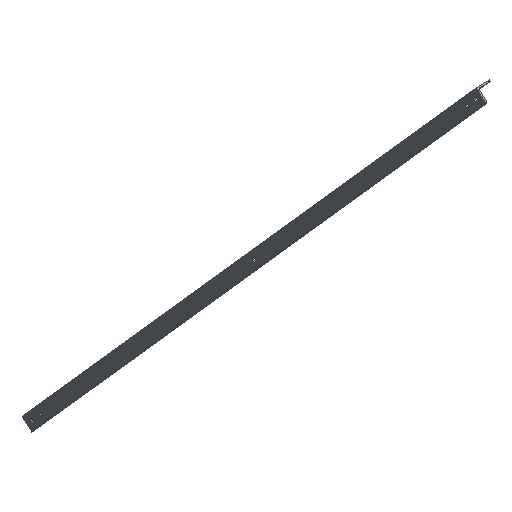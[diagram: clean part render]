
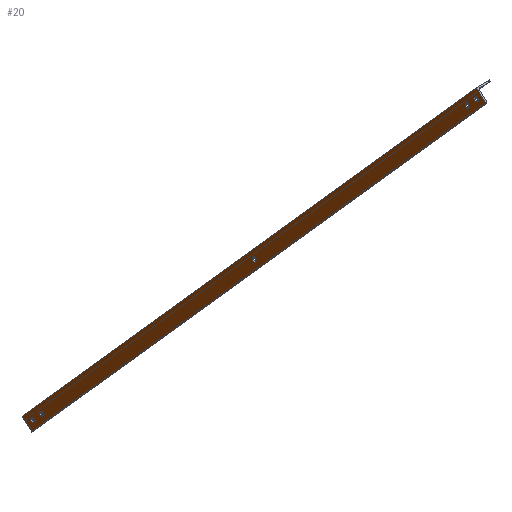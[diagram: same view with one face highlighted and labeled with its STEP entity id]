
A CAD part, isometric view. The second image highlights one B-rep face of the part: STEP entity #20.
In plain terms, the highlighted planar face has unit normal (-1, 0, 0).
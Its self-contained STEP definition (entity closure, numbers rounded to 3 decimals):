
#5 = DIRECTION ( 'NONE',  ( 0., 0., 1. ) ) ;
#9 = VERTEX_POINT ( 'NONE', #570 ) ;
#15 = ORIENTED_EDGE ( 'NONE', *, *, #16, .F. ) ;
#16 = EDGE_CURVE ( 'NONE', #703, #43, #152, .T. ) ;
#20 = ADVANCED_FACE ( 'NONE', ( #391, #68, #405, #639, #133, #580 ), #307, .F. ) ;
#28 = CIRCLE ( 'NONE', #430, 7. ) ;
#37 = VERTEX_POINT ( 'NONE', #182 ) ;
#42 = CIRCLE ( 'NONE', #662, 7. ) ;
#43 = VERTEX_POINT ( 'NONE', #225 ) ;
#44 = LINE ( 'NONE', #370, #86 ) ;
#45 = EDGE_CURVE ( 'NONE', #43, #703, #608, .T. ) ;
#50 = DIRECTION ( 'NONE',  ( -1., 0., 0. ) ) ;
#59 = EDGE_CURVE ( 'NONE', #469, #122, #154, .T. ) ;
#68 = FACE_BOUND ( 'NONE', #76, .T. ) ;
#69 = CARTESIAN_POINT ( 'NONE',  ( 5., 1747.296, 2111.993 ) ) ;
#76 = EDGE_LOOP ( 'NONE', ( #535, #544 ) ) ;
#85 = CARTESIAN_POINT ( 'NONE',  ( 5., 950., 3017. ) ) ;
#86 = VECTOR ( 'NONE', #715, 1000. ) ;
#90 = VERTEX_POINT ( 'NONE', #508 ) ;
#100 = CARTESIAN_POINT ( 'NONE',  ( 5., 950., 3010. ) ) ;
#120 = CIRCLE ( 'NONE', #537, 7. ) ;
#121 = EDGE_CURVE ( 'NONE', #622, #732, #206, .T. ) ;
#122 = VERTEX_POINT ( 'NONE', #550 ) ;
#124 = CARTESIAN_POINT ( 'NONE',  ( 5., 1747.296, 2118.993 ) ) ;
#133 = FACE_BOUND ( 'NONE', #146, .T. ) ;
#136 = ORIENTED_EDGE ( 'NONE', *, *, #624, .F. ) ;
#138 = CARTESIAN_POINT ( 'NONE',  ( 5., 1781.716, 2035.571 ) ) ;
#142 = DIRECTION ( 'NONE',  ( 0., 0., 1. ) ) ;
#146 = EDGE_LOOP ( 'NONE', ( #492, #162 ) ) ;
#152 = CIRCLE ( 'NONE', #678, 7. ) ;
#154 = CIRCLE ( 'NONE', #566, 7. ) ;
#162 = ORIENTED_EDGE ( 'NONE', *, *, #460, .F. ) ;
#163 = LINE ( 'NONE', #285, #524 ) ;
#164 = CARTESIAN_POINT ( 'NONE',  ( 5., 1747.296, 2111.993 ) ) ;
#165 = DIRECTION ( 'NONE',  ( 0., 0., 1. ) ) ;
#166 = CARTESIAN_POINT ( 'NONE',  ( 5., 1780.493, 2074.603 ) ) ;
#182 = CARTESIAN_POINT ( 'NONE',  ( 5., 1819.105, 2068.767 ) ) ;
#190 = CARTESIAN_POINT ( 'NONE',  ( 5., 950., 3010. ) ) ;
#193 = CIRCLE ( 'NONE', #331, 7. ) ;
#197 = VERTEX_POINT ( 'NONE', #124 ) ;
#204 = ORIENTED_EDGE ( 'NONE', *, *, #45, .F. ) ;
#206 = CIRCLE ( 'NONE', #630, 7. ) ;
#223 = ORIENTED_EDGE ( 'NONE', *, *, #502, .T. ) ;
#225 = CARTESIAN_POINT ( 'NONE',  ( 5., 119.507, 3952.397 ) ) ;
#226 = ORIENTED_EDGE ( 'NONE', *, *, #577, .F. ) ;
#233 = LINE ( 'NONE', #138, #398 ) ;
#235 = AXIS2_PLACEMENT_3D ( 'NONE', #291, #450, #517 ) ;
#243 = CARTESIAN_POINT ( 'NONE',  ( 5., 1780.493, 2074.603 ) ) ;
#246 = CARTESIAN_POINT ( 'NONE',  ( 5., 950., 3003. ) ) ;
#258 = DIRECTION ( 'NONE',  ( 1., 0., 0. ) ) ;
#266 = VERTEX_POINT ( 'NONE', #390 ) ;
#275 = DIRECTION ( 'NONE',  ( 0., 0., 1. ) ) ;
#283 = AXIS2_PLACEMENT_3D ( 'NONE', #528, #258, #417 ) ;
#285 = CARTESIAN_POINT ( 'NONE',  ( 5., 1819.105, 2068.767 ) ) ;
#291 = CARTESIAN_POINT ( 'NONE',  ( 5., 119.507, 3945.397 ) ) ;
#292 = ORIENTED_EDGE ( 'NONE', *, *, #357, .F. ) ;
#295 = VERTEX_POINT ( 'NONE', #85 ) ;
#302 = CIRCLE ( 'NONE', #385, 7. ) ;
#307 = PLANE ( 'NONE',  #283 ) ;
#318 = ORIENTED_EDGE ( 'NONE', *, *, #483, .T. ) ;
#322 = DIRECTION ( 'NONE',  ( -1., 0., 0. ) ) ;
#331 = AXIS2_PLACEMENT_3D ( 'NONE', #164, #722, #673 ) ;
#336 = VERTEX_POINT ( 'NONE', #729 ) ;
#342 = EDGE_CURVE ( 'NONE', #197, #9, #193, .T. ) ;
#347 = ORIENTED_EDGE ( 'NONE', *, *, #59, .F. ) ;
#355 = EDGE_CURVE ( 'NONE', #295, #388, #302, .T. ) ;
#357 = EDGE_CURVE ( 'NONE', #122, #469, #739, .T. ) ;
#370 = CARTESIAN_POINT ( 'NONE',  ( 5., 118.284, 3984.429 ) ) ;
#374 = CARTESIAN_POINT ( 'NONE',  ( 5., 152.704, 3908.007 ) ) ;
#377 = DIRECTION ( 'NONE',  ( 0., 0., 1. ) ) ;
#383 = DIRECTION ( 'NONE',  ( 0., 0.748, 0.664 ) ) ;
#385 = AXIS2_PLACEMENT_3D ( 'NONE', #100, #649, #655 ) ;
#388 = VERTEX_POINT ( 'NONE', #246 ) ;
#390 = CARTESIAN_POINT ( 'NONE',  ( 5., 118.284, 3984.429 ) ) ;
#391 = FACE_BOUND ( 'NONE', #459, .T. ) ;
#392 = CARTESIAN_POINT ( 'NONE',  ( 5., 152.704, 3901.007 ) ) ;
#398 = VECTOR ( 'NONE', #588, 1000. ) ;
#405 = FACE_BOUND ( 'NONE', #719, .T. ) ;
#417 = DIRECTION ( 'NONE',  ( 0., 0., -1. ) ) ;
#430 = AXIS2_PLACEMENT_3D ( 'NONE', #190, #635, #640 ) ;
#431 = DIRECTION ( 'NONE',  ( -1., 0., 0. ) ) ;
#435 = CARTESIAN_POINT ( 'NONE',  ( 5., 152.704, 3908.007 ) ) ;
#441 = LINE ( 'NONE', #461, #479 ) ;
#447 = EDGE_LOOP ( 'NONE', ( #204, #15 ) ) ;
#448 = EDGE_CURVE ( 'NONE', #388, #295, #28, .T. ) ;
#450 = DIRECTION ( 'NONE',  ( -1., 0., 0. ) ) ;
#459 = EDGE_LOOP ( 'NONE', ( #292, #347 ) ) ;
#460 = EDGE_CURVE ( 'NONE', #9, #197, #120, .T. ) ;
#461 = CARTESIAN_POINT ( 'NONE',  ( 5., 1819.105, 2068.767 ) ) ;
#469 = VERTEX_POINT ( 'NONE', #529 ) ;
#479 = VECTOR ( 'NONE', #680, 1000. ) ;
#483 = EDGE_CURVE ( 'NONE', #336, #90, #233, .T. ) ;
#492 = ORIENTED_EDGE ( 'NONE', *, *, #342, .F. ) ;
#494 = CARTESIAN_POINT ( 'NONE',  ( 5., 152.704, 3915.007 ) ) ;
#502 = EDGE_CURVE ( 'NONE', #90, #266, #44, .T. ) ;
#508 = CARTESIAN_POINT ( 'NONE',  ( 5., 80.895, 3951.233 ) ) ;
#517 = DIRECTION ( 'NONE',  ( 0., 0., 1. ) ) ;
#524 = VECTOR ( 'NONE', #383, 1000. ) ;
#528 = CARTESIAN_POINT ( 'NONE',  ( 5., 1819.105, 2068.767 ) ) ;
#529 = CARTESIAN_POINT ( 'NONE',  ( 5., 1780.493, 2067.603 ) ) ;
#535 = ORIENTED_EDGE ( 'NONE', *, *, #355, .F. ) ;
#537 = AXIS2_PLACEMENT_3D ( 'NONE', #69, #701, #5 ) ;
#544 = ORIENTED_EDGE ( 'NONE', *, *, #448, .F. ) ;
#550 = CARTESIAN_POINT ( 'NONE',  ( 5., 1780.493, 2081.603 ) ) ;
#557 = AXIS2_PLACEMENT_3D ( 'NONE', #243, #583, #142 ) ;
#565 = DIRECTION ( 'NONE',  ( 0., 0., 1. ) ) ;
#566 = AXIS2_PLACEMENT_3D ( 'NONE', #166, #50, #275 ) ;
#570 = CARTESIAN_POINT ( 'NONE',  ( 5., 1747.296, 2104.993 ) ) ;
#576 = ORIENTED_EDGE ( 'NONE', *, *, #734, .F. ) ;
#577 = EDGE_CURVE ( 'NONE', #37, #266, #441, .T. ) ;
#580 = FACE_OUTER_BOUND ( 'NONE', #737, .T. ) ;
#583 = DIRECTION ( 'NONE',  ( -1., 0., 0. ) ) ;
#588 = DIRECTION ( 'NONE',  ( 0., -0.664, 0.748 ) ) ;
#608 = CIRCLE ( 'NONE', #235, 7. ) ;
#622 = VERTEX_POINT ( 'NONE', #494 ) ;
#624 = EDGE_CURVE ( 'NONE', #732, #622, #42, .T. ) ;
#630 = AXIS2_PLACEMENT_3D ( 'NONE', #374, #322, #377 ) ;
#635 = DIRECTION ( 'NONE',  ( -1., 0., 0. ) ) ;
#639 = FACE_BOUND ( 'NONE', #447, .T. ) ;
#640 = DIRECTION ( 'NONE',  ( 0., 0., 1. ) ) ;
#643 = DIRECTION ( 'NONE',  ( -1., 0., 0. ) ) ;
#649 = DIRECTION ( 'NONE',  ( -1., 0., 0. ) ) ;
#655 = DIRECTION ( 'NONE',  ( 0., 0., 1. ) ) ;
#662 = AXIS2_PLACEMENT_3D ( 'NONE', #435, #431, #165 ) ;
#664 = CARTESIAN_POINT ( 'NONE',  ( 5., 119.507, 3938.397 ) ) ;
#672 = ORIENTED_EDGE ( 'NONE', *, *, #121, .F. ) ;
#673 = DIRECTION ( 'NONE',  ( 0., 0., 1. ) ) ;
#678 = AXIS2_PLACEMENT_3D ( 'NONE', #688, #643, #565 ) ;
#680 = DIRECTION ( 'NONE',  ( 0., -0.664, 0.748 ) ) ;
#688 = CARTESIAN_POINT ( 'NONE',  ( 5., 119.507, 3945.397 ) ) ;
#701 = DIRECTION ( 'NONE',  ( -1., 0., 0. ) ) ;
#703 = VERTEX_POINT ( 'NONE', #664 ) ;
#715 = DIRECTION ( 'NONE',  ( 0., 0.748, 0.664 ) ) ;
#719 = EDGE_LOOP ( 'NONE', ( #672, #136 ) ) ;
#722 = DIRECTION ( 'NONE',  ( -1., 0., 0. ) ) ;
#729 = CARTESIAN_POINT ( 'NONE',  ( 5., 1781.716, 2035.571 ) ) ;
#732 = VERTEX_POINT ( 'NONE', #392 ) ;
#734 = EDGE_CURVE ( 'NONE', #336, #37, #163, .T. ) ;
#737 = EDGE_LOOP ( 'NONE', ( #223, #226, #576, #318 ) ) ;
#739 = CIRCLE ( 'NONE', #557, 7. ) ;
